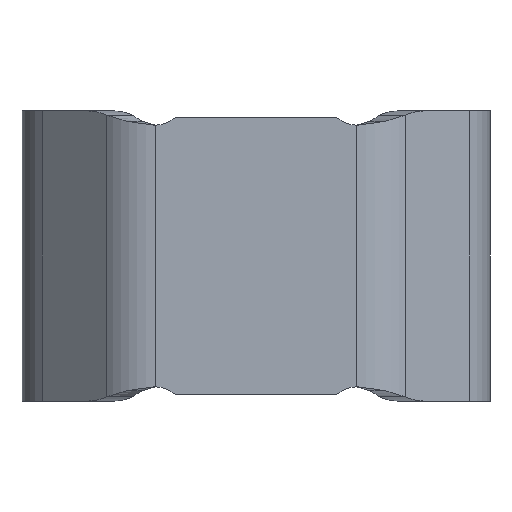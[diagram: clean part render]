
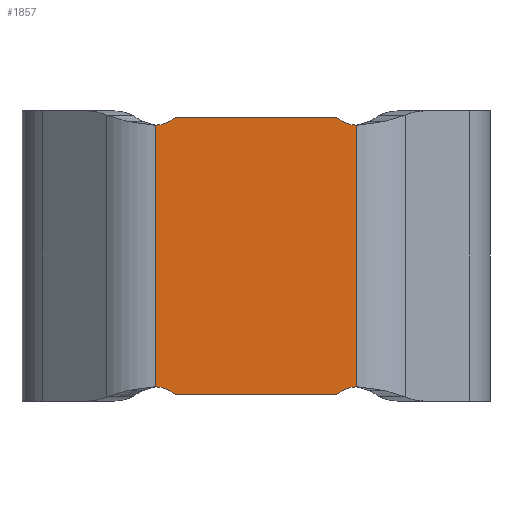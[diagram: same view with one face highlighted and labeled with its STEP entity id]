
A CAD part, front view. The second image highlights one B-rep face of the part: STEP entity #1857.
In plain terms, the highlighted planar face has unit normal (0, -1, 0).
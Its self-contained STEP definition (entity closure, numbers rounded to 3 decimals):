
#36 = DIRECTION ( 'NONE',  ( 1., 0., 0. ) ) ;
#84 = CARTESIAN_POINT ( 'NONE',  ( 3.109, 0., 4.051 ) ) ;
#215 = CARTESIAN_POINT ( 'NONE',  ( -3.161, 0., 5.05 ) ) ;
#273 = CARTESIAN_POINT ( 'NONE',  ( -3.109, 0., -4.051 ) ) ;
#414 = AXIS2_PLACEMENT_3D ( 'NONE', #215, #2810, #4455 ) ;
#453 = CARTESIAN_POINT ( 'NONE',  ( 2.5, 0., 4.3 ) ) ;
#548 = VERTEX_POINT ( 'NONE', #675 ) ;
#557 = DIRECTION ( 'NONE',  ( 0., 0., -1. ) ) ;
#567 = VECTOR ( 'NONE', #3877, 1000. ) ;
#604 = ORIENTED_EDGE ( 'NONE', *, *, #3958, .F. ) ;
#675 = CARTESIAN_POINT ( 'NONE',  ( -2.5, 0., -4.3 ) ) ;
#749 = CARTESIAN_POINT ( 'NONE',  ( -3.109, 0., 4.051 ) ) ;
#820 = DIRECTION ( 'NONE',  ( 0., 1., 0. ) ) ;
#825 = AXIS2_PLACEMENT_3D ( 'NONE', #4664, #4553, #2551 ) ;
#875 = DIRECTION ( 'NONE',  ( 0., 0., 1. ) ) ;
#887 = CARTESIAN_POINT ( 'NONE',  ( 3.109, 0., -4. ) ) ;
#1060 = VERTEX_POINT ( 'NONE', #2310 ) ;
#1155 = CARTESIAN_POINT ( 'NONE',  ( 3.161, 0., -5.05 ) ) ;
#1200 = DIRECTION ( 'NONE',  ( -1., 0., 0. ) ) ;
#1211 = ORIENTED_EDGE ( 'NONE', *, *, #5270, .T. ) ;
#1232 = VERTEX_POINT ( 'NONE', #3243 ) ;
#1317 = CIRCLE ( 'NONE', #3000, 1. ) ;
#1379 = VERTEX_POINT ( 'NONE', #84 ) ;
#1765 = DIRECTION ( 'NONE',  ( 0., 1., 0. ) ) ;
#1808 = LINE ( 'NONE', #2692, #1895 ) ;
#1857 = ADVANCED_FACE ( 'NONE', ( #2985 ), #2901, .F. ) ;
#1895 = VECTOR ( 'NONE', #36, 1000. ) ;
#1957 = EDGE_CURVE ( 'NONE', #1379, #3366, #4582, .T. ) ;
#1966 = DIRECTION ( 'NONE',  ( 0., 1., 0. ) ) ;
#2061 = EDGE_CURVE ( 'NONE', #4270, #2939, #3163, .T. ) ;
#2122 = ORIENTED_EDGE ( 'NONE', *, *, #3788, .T. ) ;
#2209 = CARTESIAN_POINT ( 'NONE',  ( 3.161, 0., 5.05 ) ) ;
#2310 = CARTESIAN_POINT ( 'NONE',  ( 2.5, 0., -4.3 ) ) ;
#2438 = ORIENTED_EDGE ( 'NONE', *, *, #1957, .T. ) ;
#2551 = DIRECTION ( 'NONE',  ( 0., 0., 1. ) ) ;
#2692 = CARTESIAN_POINT ( 'NONE',  ( -2.5, 0., -4.3 ) ) ;
#2721 = AXIS2_PLACEMENT_3D ( 'NONE', #4682, #820, #875 ) ;
#2741 = VECTOR ( 'NONE', #557, 1000. ) ;
#2747 = EDGE_CURVE ( 'NONE', #548, #1060, #1808, .T. ) ;
#2810 = DIRECTION ( 'NONE',  ( 0., 1., 0. ) ) ;
#2901 = PLANE ( 'NONE',  #2721 ) ;
#2939 = VERTEX_POINT ( 'NONE', #749 ) ;
#2985 = FACE_OUTER_BOUND ( 'NONE', #4235, .T. ) ;
#3000 = AXIS2_PLACEMENT_3D ( 'NONE', #1155, #1966, #4542 ) ;
#3161 = LINE ( 'NONE', #5193, #2741 ) ;
#3163 = CIRCLE ( 'NONE', #414, 1. ) ;
#3216 = CIRCLE ( 'NONE', #825, 1. ) ;
#3243 = CARTESIAN_POINT ( 'NONE',  ( 3.109, 0., -4.051 ) ) ;
#3268 = CARTESIAN_POINT ( 'NONE',  ( -2.5, 0., 4.3 ) ) ;
#3366 = VERTEX_POINT ( 'NONE', #453 ) ;
#3653 = VECTOR ( 'NONE', #1200, 1000. ) ;
#3661 = ORIENTED_EDGE ( 'NONE', *, *, #4268, .T. ) ;
#3788 = EDGE_CURVE ( 'NONE', #3366, #4270, #5117, .T. ) ;
#3877 = DIRECTION ( 'NONE',  ( 0., 0., -1. ) ) ;
#3916 = DIRECTION ( 'NONE',  ( 0., 0., 1. ) ) ;
#3933 = LINE ( 'NONE', #887, #567 ) ;
#3958 = EDGE_CURVE ( 'NONE', #1379, #1232, #3933, .T. ) ;
#4042 = AXIS2_PLACEMENT_3D ( 'NONE', #2209, #1765, #3916 ) ;
#4235 = EDGE_LOOP ( 'NONE', ( #4815, #5207, #3661, #4592, #1211, #604, #2438, #2122 ) ) ;
#4268 = EDGE_CURVE ( 'NONE', #5262, #548, #3216, .T. ) ;
#4270 = VERTEX_POINT ( 'NONE', #3268 ) ;
#4455 = DIRECTION ( 'NONE',  ( 0., 0., -1. ) ) ;
#4542 = DIRECTION ( 'NONE',  ( 0., 0., -1. ) ) ;
#4553 = DIRECTION ( 'NONE',  ( 0., 1., 0. ) ) ;
#4582 = CIRCLE ( 'NONE', #4042, 1. ) ;
#4592 = ORIENTED_EDGE ( 'NONE', *, *, #2747, .T. ) ;
#4639 = EDGE_CURVE ( 'NONE', #2939, #5262, #3161, .T. ) ;
#4664 = CARTESIAN_POINT ( 'NONE',  ( -3.161, 0., -5.05 ) ) ;
#4682 = CARTESIAN_POINT ( 'NONE',  ( -31.892, 0., -4. ) ) ;
#4815 = ORIENTED_EDGE ( 'NONE', *, *, #2061, .T. ) ;
#5117 = LINE ( 'NONE', #5475, #3653 ) ;
#5193 = CARTESIAN_POINT ( 'NONE',  ( -3.109, 0., -4. ) ) ;
#5207 = ORIENTED_EDGE ( 'NONE', *, *, #4639, .T. ) ;
#5262 = VERTEX_POINT ( 'NONE', #273 ) ;
#5270 = EDGE_CURVE ( 'NONE', #1060, #1232, #1317, .T. ) ;
#5475 = CARTESIAN_POINT ( 'NONE',  ( -2.5, 0., 4.3 ) ) ;
